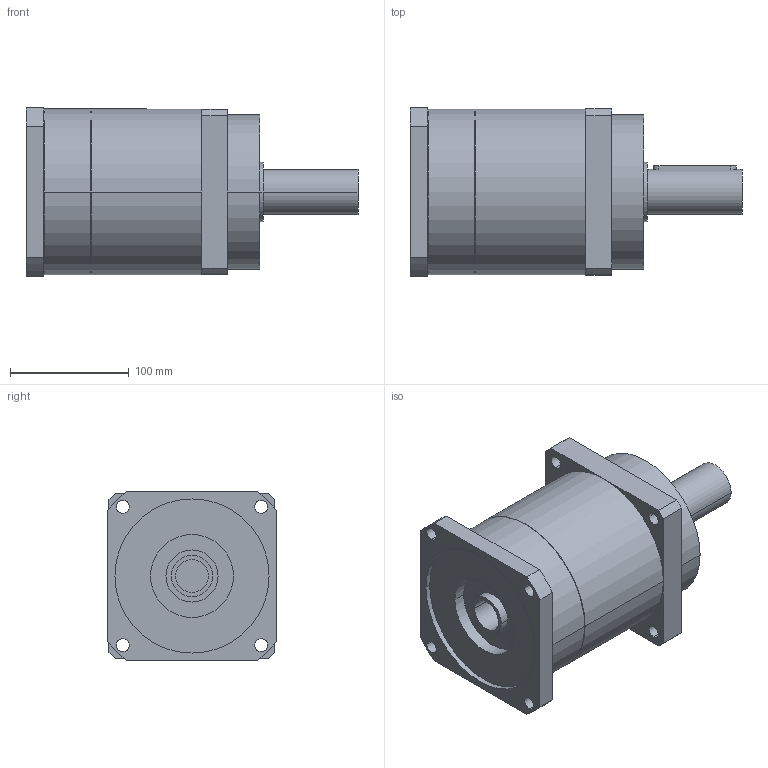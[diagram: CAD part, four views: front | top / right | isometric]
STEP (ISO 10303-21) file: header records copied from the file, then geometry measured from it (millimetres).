
FILE_DESCRIPTION(('CoCreate Modeling STEP Export'),'2;1');
FILE_NAME('GPR150_ig-3-4-5-7_38_B5_28_P05.stp','2014-08-19T16:42:41',(''),(''),'CoCreate Modeling STEP processor for AP214 (Solid Model)','CoCreate Modeling 16.00C 25-Feb-2009 (C) Parametric Technology GmbH','');
FILE_SCHEMA(('AUTOMOTIVE_DESIGN { 1 0 10303 214 1 1 1 1 }'));
Length unit declared in the file: millimetre
Products named in the file (2): GPR150_ig-3-4-5-7_38_B5_28_P05
Assembly tree (1 placements, depth 2):
  GPR150_ig-3-4-5-7_38_B5_28_P05
    GPR150_ig-3-4-5-7_38_B5_28_P05
Bounding box: 280 x 142 x 142 mm (x, y, z)
Volume: 3074468.2 mm3; surface area: 164013 mm2
Topology: 1 solids, 1 shells, 81 faces, 220 edges, 150 vertices
Faces by surface type: cylinder 48, plane 27, cone 6
Entity records: 2325 total; most frequent: ORIENTED_EDGE 436, CARTESIAN_POINT 431, DIRECTION 330, EDGE_CURVE 218, VERTEX_POINT 150, AXIS2_PLACEMENT_3D 121, EDGE_LOOP 108, VECTOR 88
